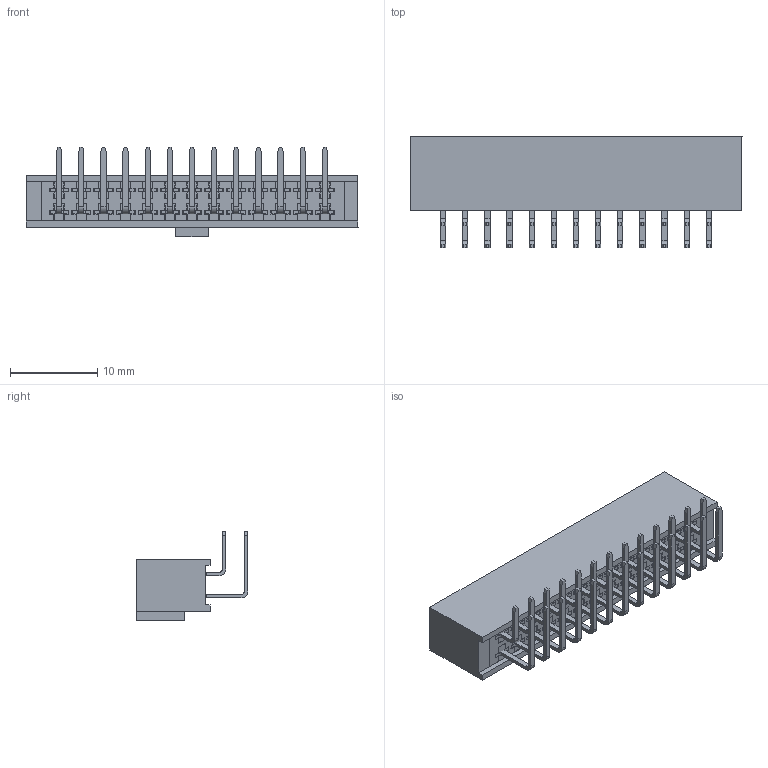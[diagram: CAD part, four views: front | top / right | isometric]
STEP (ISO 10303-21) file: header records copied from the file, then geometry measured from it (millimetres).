
FILE_DESCRIPTION (( 'STEP AP214' ), '1' );
FILE_NAME ('2046-26G00RA.STEP', '2017-09-04T17:04:51', ( '' ), ( '' ), 'SwSTEP 2.0', 'SolidWorks 2015', '' );
FILE_SCHEMA (( 'AUTOMOTIVE_DESIGN' ));
Length unit declared in the file: millimetre
Products named in the file (31): 2044-PIN-S; 2046-2X20B; 2044-PIN-S_2044-R2; 2046-26G00RA
Assembly tree (27 placements, depth 2):
  2044-PIN-S
  2046-2X20B
  2044-PIN-S_2044-R2
  2044-PIN-S_2044-R2
  2046-26G00RA
    2046-2X20B
    2044-PIN-S  x13
    2044-PIN-S_2044-R2  x13
Bounding box: 38.1 x 12.84 x 10.3 mm (x, y, z)
Volume: 2624.5 mm3; surface area: 4059.4 mm2
Topology: 28 solids, 28 shells, 1382 faces, 3664 edges, 2368 vertices
Faces by surface type: plane 1226, cylinder 156
Entity records: 27928 total; most frequent: CARTESIAN_POINT 4805, ORIENTED_EDGE 4736, DIRECTION 4258, EDGE_CURVE 2368, LINE 2344, VECTOR 2344, VERTEX_POINT 1504, EDGE_LOOP 984
